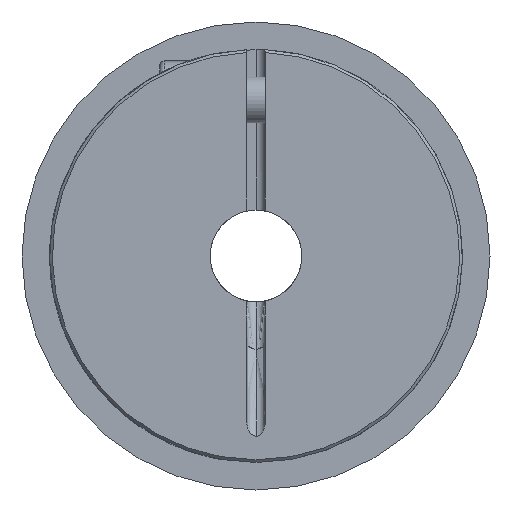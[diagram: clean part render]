
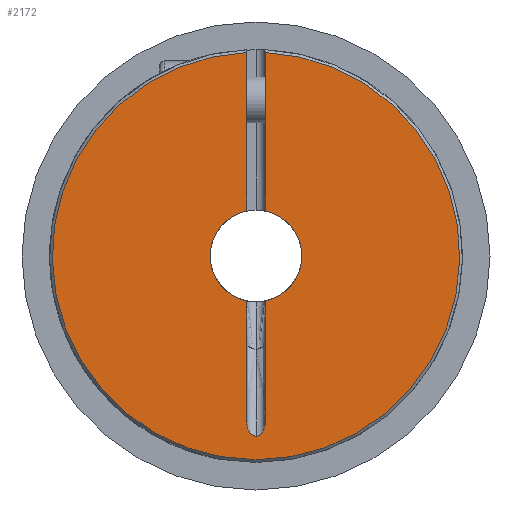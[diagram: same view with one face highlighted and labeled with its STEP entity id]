
A CAD part, left-side view. The second image highlights one B-rep face of the part: STEP entity #2172.
In plain terms, the highlighted planar face has unit normal (-1, 0, 0).
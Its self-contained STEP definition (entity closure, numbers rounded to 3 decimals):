
#7 = B_SPLINE_CURVE_WITH_KNOTS ( 'NONE', 3,
 ( #2900, #2644, #3461, #3167, #2387, #787, #2959, #2190, #1070, #865 ),
 .UNSPECIFIED., .F., .F.,
 ( 4, 2, 2, 2, 4 ),
 ( 0., 0., 0.001, 0.001, 0.002 ),
 .UNSPECIFIED. ) ;
#28 = EDGE_CURVE ( 'NONE', #533, #2066, #1239, .T. ) ;
#31 = VERTEX_POINT ( 'NONE', #2079 ) ;
#81 = CARTESIAN_POINT ( 'NONE',  ( 0., 0., 0. ) ) ;
#126 = PLANE ( 'NONE',  #1665 ) ;
#138 = DIRECTION ( 'NONE',  ( 0., 0., -1. ) ) ;
#163 = VERTEX_POINT ( 'NONE', #834 ) ;
#176 = CARTESIAN_POINT ( 'NONE',  ( 0., 0., -19.63 ) ) ;
#224 = CARTESIAN_POINT ( 'NONE',  ( 0., -0.33, -19.564 ) ) ;
#390 = DIRECTION ( 'NONE',  ( 1., 0., 0. ) ) ;
#406 = ORIENTED_EDGE ( 'NONE', *, *, #3038, .T. ) ;
#420 = CARTESIAN_POINT ( 'NONE',  ( 0., -0.91, -18.775 ) ) ;
#468 = DIRECTION ( 'NONE',  ( 0., 0., 1. ) ) ;
#472 = CARTESIAN_POINT ( 'NONE',  ( 0., -1., -18.291 ) ) ;
#478 = EDGE_LOOP ( 'NONE', ( #2875, #2569, #2984, #2186, #1051, #1215, #3118, #1562, #3072, #406 ) ) ;
#514 = VECTOR ( 'NONE', #2665, 1000. ) ;
#533 = VERTEX_POINT ( 'NONE', #985 ) ;
#613 = DIRECTION ( 'NONE',  ( 0., 0., 1. ) ) ;
#614 = CARTESIAN_POINT ( 'NONE',  ( 0., 1., 4.899 ) ) ;
#633 = VERTEX_POINT ( 'NONE', #614 ) ;
#787 = CARTESIAN_POINT ( 'NONE',  ( 0., 0.854, -18.936 ) ) ;
#797 = VECTOR ( 'NONE', #3378, 1000. ) ;
#834 = CARTESIAN_POINT ( 'NONE',  ( 0., 0., -22.2 ) ) ;
#865 = CARTESIAN_POINT ( 'NONE',  ( 0., 1., -18.125 ) ) ;
#910 = CARTESIAN_POINT ( 'NONE',  ( 0., 0., 0. ) ) ;
#965 = CARTESIAN_POINT ( 'NONE',  ( 0., 1., 22.177 ) ) ;
#985 = CARTESIAN_POINT ( 'NONE',  ( 0., -1., 4.899 ) ) ;
#1042 = CARTESIAN_POINT ( 'NONE',  ( 0., -0.983, -18.455 ) ) ;
#1051 = ORIENTED_EDGE ( 'NONE', *, *, #28, .T. ) ;
#1070 = CARTESIAN_POINT ( 'NONE',  ( 0., 1., -18.291 ) ) ;
#1071 = DIRECTION ( 'NONE',  ( -1., 0., 0. ) ) ;
#1083 = VERTEX_POINT ( 'NONE', #965 ) ;
#1163 = CARTESIAN_POINT ( 'NONE',  ( 0., -1., -4.899 ) ) ;
#1169 = DIRECTION ( 'NONE',  ( -1., 0., 0. ) ) ;
#1208 = CARTESIAN_POINT ( 'NONE',  ( 0., 0., 0. ) ) ;
#1215 = ORIENTED_EDGE ( 'NONE', *, *, #1340, .F. ) ;
#1239 = CIRCLE ( 'NONE', #2571, 5. ) ;
#1340 = EDGE_CURVE ( 'NONE', #1727, #2066, #1810, .T. ) ;
#1423 = CIRCLE ( 'NONE', #3369, 5. ) ;
#1464 = LINE ( 'NONE', #1965, #2452 ) ;
#1498 = CARTESIAN_POINT ( 'NONE',  ( 0., -0.854, -18.935 ) ) ;
#1544 = DIRECTION ( 'NONE',  ( 0., 0., -1. ) ) ;
#1558 = CARTESIAN_POINT ( 'NONE',  ( 0., 0., 0. ) ) ;
#1562 = ORIENTED_EDGE ( 'NONE', *, *, #2355, .T. ) ;
#1597 = CARTESIAN_POINT ( 'NONE',  ( 0., -1., 0. ) ) ;
#1665 = AXIS2_PLACEMENT_3D ( 'NONE', #1208, #2803, #138 ) ;
#1727 = VERTEX_POINT ( 'NONE', #3276 ) ;
#1753 = EDGE_CURVE ( 'NONE', #163, #31, #3005, .T. ) ;
#1810 = LINE ( 'NONE', #3330, #797 ) ;
#1829 = VERTEX_POINT ( 'NONE', #176 ) ;
#1861 = EDGE_CURVE ( 'NONE', #1727, #1829, #3179, .T. ) ;
#1965 = CARTESIAN_POINT ( 'NONE',  ( 0., 1., 0. ) ) ;
#1974 = DIRECTION ( 'NONE',  ( 0., 0., -1. ) ) ;
#2025 = VERTEX_POINT ( 'NONE', #2998 ) ;
#2046 = EDGE_CURVE ( 'NONE', #633, #1083, #1464, .T. ) ;
#2066 = VERTEX_POINT ( 'NONE', #1163 ) ;
#2079 = CARTESIAN_POINT ( 'NONE',  ( 0., -1., 22.177 ) ) ;
#2153 = CIRCLE ( 'NONE', #2638, 22.2 ) ;
#2172 = ADVANCED_FACE ( 'NONE', ( #3051 ), #126, .F. ) ;
#2186 = ORIENTED_EDGE ( 'NONE', *, *, #2883, .F. ) ;
#2190 = CARTESIAN_POINT ( 'NONE',  ( 0., 0.983, -18.456 ) ) ;
#2235 = EDGE_CURVE ( 'NONE', #2025, #2617, #3091, .T. ) ;
#2336 = VECTOR ( 'NONE', #468, 1000. ) ;
#2355 = EDGE_CURVE ( 'NONE', #1829, #2025, #7, .T. ) ;
#2387 = CARTESIAN_POINT ( 'NONE',  ( 0., 0.696, -19.227 ) ) ;
#2452 = VECTOR ( 'NONE', #613, 1000. ) ;
#2569 = ORIENTED_EDGE ( 'NONE', *, *, #2842, .T. ) ;
#2571 = AXIS2_PLACEMENT_3D ( 'NONE', #2599, #3173, #1544 ) ;
#2599 = CARTESIAN_POINT ( 'NONE',  ( 0., 0., 0. ) ) ;
#2617 = VERTEX_POINT ( 'NONE', #2742 ) ;
#2630 = CARTESIAN_POINT ( 'NONE',  ( 0., -0.697, -19.225 ) ) ;
#2638 = AXIS2_PLACEMENT_3D ( 'NONE', #1558, #1071, #2886 ) ;
#2644 = CARTESIAN_POINT ( 'NONE',  ( 0., 0.168, -19.63 ) ) ;
#2665 = DIRECTION ( 'NONE',  ( 0., 0., 1. ) ) ;
#2742 = CARTESIAN_POINT ( 'NONE',  ( 0., 1., -4.899 ) ) ;
#2803 = DIRECTION ( 'NONE',  ( 1., 0., 0. ) ) ;
#2832 = AXIS2_PLACEMENT_3D ( 'NONE', #81, #1169, #3293 ) ;
#2842 = EDGE_CURVE ( 'NONE', #1083, #163, #2153, .T. ) ;
#2855 = CARTESIAN_POINT ( 'NONE',  ( 0., -0.168, -19.63 ) ) ;
#2875 = ORIENTED_EDGE ( 'NONE', *, *, #2046, .T. ) ;
#2883 = EDGE_CURVE ( 'NONE', #533, #31, #2920, .T. ) ;
#2885 = CARTESIAN_POINT ( 'NONE',  ( 0., 1., 0. ) ) ;
#2886 = DIRECTION ( 'NONE',  ( 0., 0., -1. ) ) ;
#2900 = CARTESIAN_POINT ( 'NONE',  ( 0., 0., -19.63 ) ) ;
#2920 = LINE ( 'NONE', #1597, #514 ) ;
#2959 = CARTESIAN_POINT ( 'NONE',  ( 0., 0.909, -18.779 ) ) ;
#2984 = ORIENTED_EDGE ( 'NONE', *, *, #1753, .T. ) ;
#2998 = CARTESIAN_POINT ( 'NONE',  ( 0., 1., -18.125 ) ) ;
#3005 = CIRCLE ( 'NONE', #2832, 22.2 ) ;
#3038 = EDGE_CURVE ( 'NONE', #2617, #633, #1423, .T. ) ;
#3051 = FACE_OUTER_BOUND ( 'NONE', #478, .T. ) ;
#3072 = ORIENTED_EDGE ( 'NONE', *, *, #2235, .T. ) ;
#3091 = LINE ( 'NONE', #2885, #2336 ) ;
#3118 = ORIENTED_EDGE ( 'NONE', *, *, #1861, .T. ) ;
#3167 = CARTESIAN_POINT ( 'NONE',  ( 0., 0.593, -19.361 ) ) ;
#3172 = CARTESIAN_POINT ( 'NONE',  ( 0., 0., -19.63 ) ) ;
#3173 = DIRECTION ( 'NONE',  ( 1., 0., 0. ) ) ;
#3179 = B_SPLINE_CURVE_WITH_KNOTS ( 'NONE', 3,
 ( #3445, #472, #1042, #420, #1498, #2630, #3371, #224, #2855, #3172 ),
 .UNSPECIFIED., .F., .F.,
 ( 4, 2, 2, 2, 4 ),
 ( 0., 0., 0.001, 0.001, 0.002 ),
 .UNSPECIFIED. ) ;
#3276 = CARTESIAN_POINT ( 'NONE',  ( 0., -1., -18.125 ) ) ;
#3293 = DIRECTION ( 'NONE',  ( 0., 0., -1. ) ) ;
#3330 = CARTESIAN_POINT ( 'NONE',  ( 0., -1., 0. ) ) ;
#3369 = AXIS2_PLACEMENT_3D ( 'NONE', #910, #390, #1974 ) ;
#3371 = CARTESIAN_POINT ( 'NONE',  ( 0., -0.593, -19.36 ) ) ;
#3378 = DIRECTION ( 'NONE',  ( 0., 0., 1. ) ) ;
#3445 = CARTESIAN_POINT ( 'NONE',  ( 0., -1., -18.125 ) ) ;
#3461 = CARTESIAN_POINT ( 'NONE',  ( 0., 0.328, -19.565 ) ) ;
